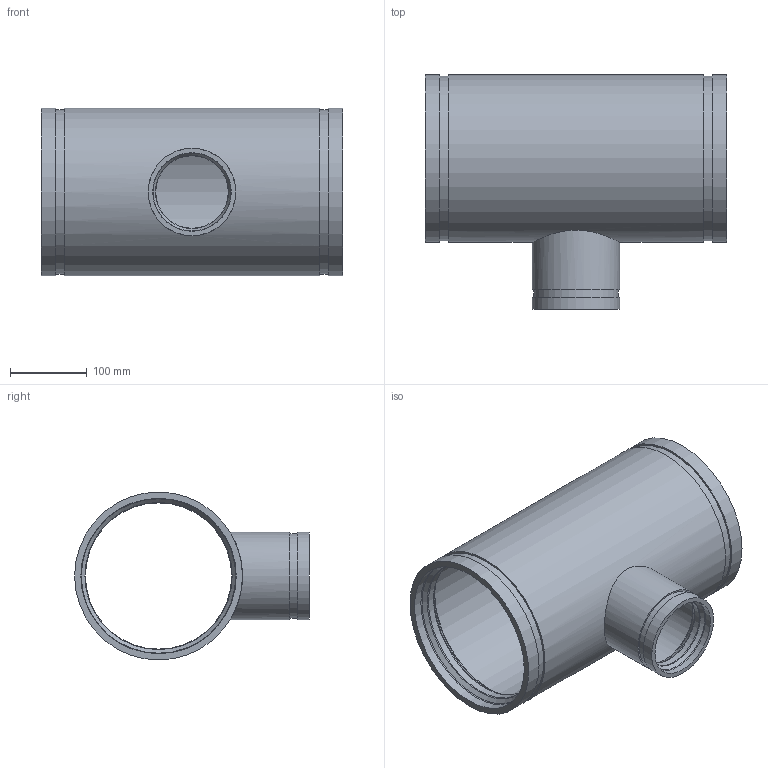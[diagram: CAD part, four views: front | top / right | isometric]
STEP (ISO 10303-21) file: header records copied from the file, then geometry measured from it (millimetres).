
FILE_DESCRIPTION(/* description */ ('VIC REDUCING TEE No 425H-SS','CAx-IF Rec.Pracs.---Representation and Presentation of Product Manufacturing Information (PMI)---4.0---2014-10-13'),/* implementation_level */ '2;1');
FILE_NAME(/* name */ 'C:\Users\kkamble\AppData\Roaming\Autodesk\ApplicationPlugins\Back Up\Victaulic_SS-OGS_Tee Reducing_Sched 40S_No 425H SS (OGS)\Victaulic_SS-OGS_Tee Reducing_Sched 40S_No 425H SS (OGS)_08.0x04.0 (200x100).stp',/* time_stamp */ '2020-08-27T17:20:17+06:00',/* author */ ('CORINNE GRAY'),/* organization */ ('Victaulic'),/* preprocessor_version */ 'ST-DEVELOPER v17.2',/* originating_system */ 'Autodesk Inventor 2019',/* authorisation */ '');
FILE_SCHEMA (('AP242_MANAGED_MODEL_BASED_3D_ENGINEERING_MIM_LF { 1 0 10303 442 1 1 4 }'));
Length unit declared in the file: inch
Products named in the file (1): 425H SS-08.0x04.0
Bounding box: 393.7 x 306.39 x 219.07 mm (x, y, z)
Volume: 2362348.1 mm3; surface area: 594062.1 mm2
Topology: 1 solids, 1 shells, 43 faces, 134 edges, 100 vertices
Faces by surface type: cylinder 16, torus 12, plane 9, cone 6
Full cylindrical faces by diameter (mm): 94.64 x1, 102.362 x2, 110.084 x1, 114.3 x2, 190.983 x2, 202.692 x3, 214.401 x2, 219.075 x3
Entity records: 1919 total; most frequent: CARTESIAN_POINT 427, DIRECTION 352, ORIENTED_EDGE 268, AXIS2_PLACEMENT_3D 165, EDGE_CURVE 134, CIRCLE 108, VERTEX_POINT 100, EDGE_LOOP 54
